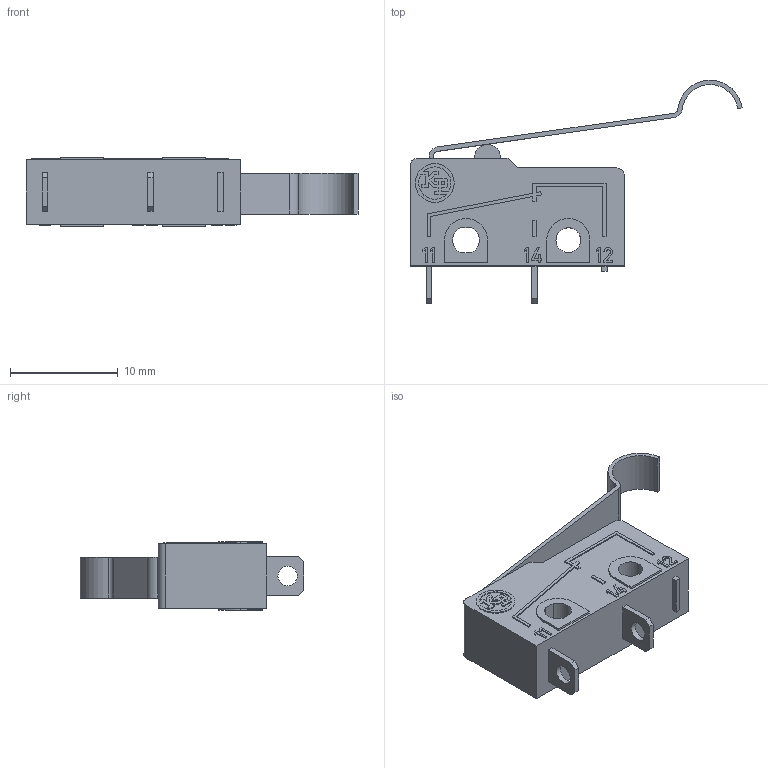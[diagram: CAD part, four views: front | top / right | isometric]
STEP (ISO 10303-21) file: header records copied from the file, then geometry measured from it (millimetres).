
FILE_DESCRIPTION(('Microrutor Subminiatura Alavanca c/ Roldana Simulada NA'),'2;1');
FILE_NAME('E:\WorkFolder\Bibl\3DWeb\kp_mm_mm$u3$s_step.stp','2022-08-24T08:40:23',('DIE'),('KAP Componentes Eletricos Ltda.'),'Autodesk Inventor 2011','Autodesk Inventor 2011','Direitos reservados. Proibido reproducao, cedencia ou revelacao de conteudo a terceiros, salvo com autorizacao.');
FILE_SCHEMA(('AUTOMOTIVE_DESIGN { 1 0 10303 214 1 1 1 1 }'));
Length unit declared in the file: millimetre
Products named in the file (1): Part1
Bounding box: 30.83 x 20.75 x 6.4 mm (x, y, z)
Volume: 1161.4 mm3; surface area: 1172.7 mm2
Topology: 1 solids, 1 shells, 248 faces, 658 edges, 439 vertices
Faces by surface type: plane 213, cylinder 35
Full cylindrical faces by diameter (mm): 1.8 x2, 2.3 x1, 3.6 x1
Entity records: 7875 total; most frequent: CARTESIAN_POINT 1340, ORIENTED_EDGE 1306, DIRECTION 1221, EDGE_CURVE 653, VECTOR 583, LINE 583, VERTEX_POINT 438, AXIS2_PLACEMENT_3D 319
